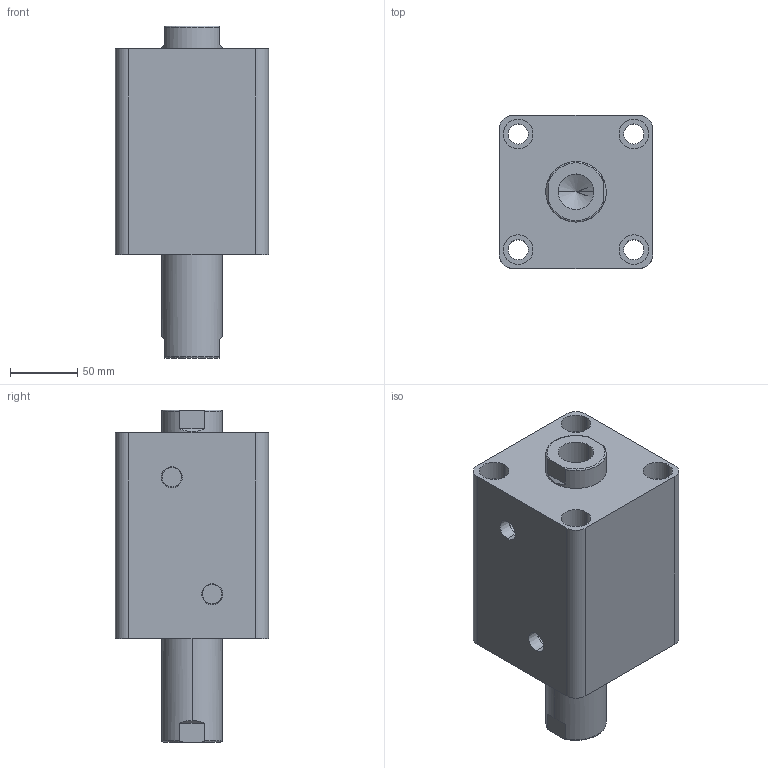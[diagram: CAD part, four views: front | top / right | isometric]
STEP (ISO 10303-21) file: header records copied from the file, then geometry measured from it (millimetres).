
FILE_DESCRIPTION (( 'STEP AP203' ), '1' );
FILE_NAME ('HTB-SW80-60N.STEP', '2019-10-07T10:24:05', ( '微软用户' ), ( '微软中国' ), 'SwSTEP 2.0', 'SolidWorks 2012', '' );
FILE_SCHEMA (( 'CONFIG_CONTROL_DESIGN' ));
Length unit declared in the file: millimetre
Products named in the file (3): HTB-SW80-60N; HTB-SW80-60N活塞杆; HTB-SW80-60掛极
Assembly tree (2 placements, depth 2):
  HTB-SW80-60N
    HTB-SW80-60掛极
    HTB-SW80-60N活塞杆
Bounding box: 114 x 114 x 247 mm (x, y, z)
Volume: 1749962.3 mm3; surface area: 212008.3 mm2
Topology: 2 solids, 2 shells, 100 faces, 228 edges, 146 vertices
Faces by surface type: cylinder 48, plane 32, torus 12, cone 8
Entity records: 3237 total; most frequent: CARTESIAN_POINT 595, DIRECTION 542, ORIENTED_EDGE 448, AXIS2_PLACEMENT_3D 229, EDGE_CURVE 224, VERTEX_POINT 146, EDGE_LOOP 128, CIRCLE 124
